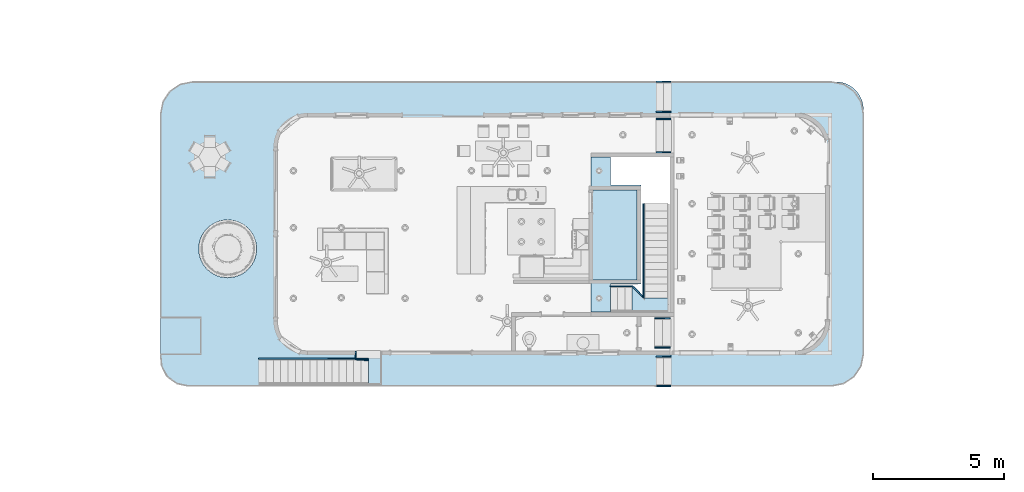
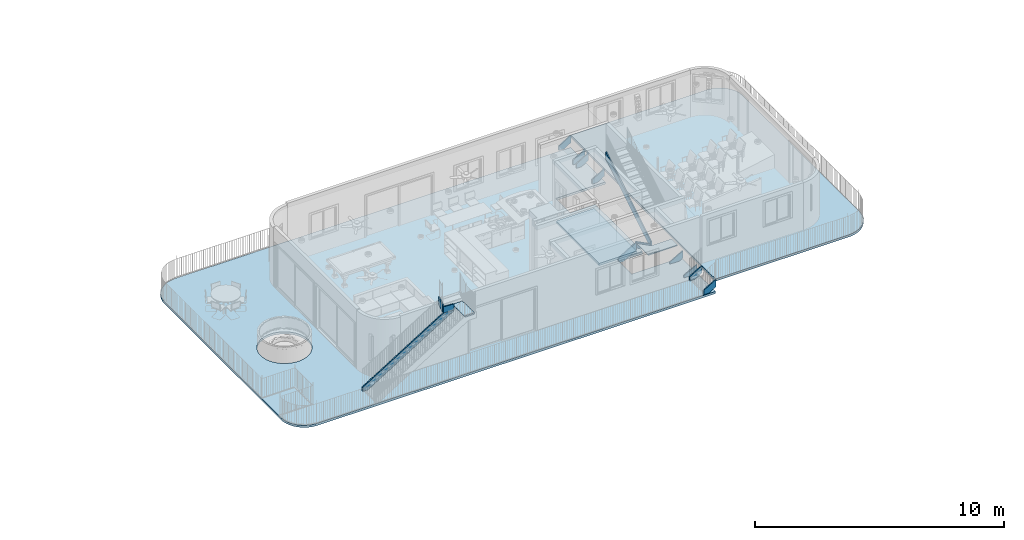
# One storey, part 1 of 21: 14 members, 6 slabs, 2 openings, 6 elements without a shape of their own.
"""IFC2X3 building model written with IfcOpenShell, lengths in feet."""

from ifc_helpers import new_model, entity, si_unit, converted_unit, derived_unit, direction, frame, frame_2d, origin, place, context, subcontext, project, spatial, polyline, circle_curve, parameter, trimmed, segment, composite_curve, rectangle, circle, outline, extrude, faceted_brep, material, layer, layer_set, layer_usage, element, aggregate, save


model = new_model("IFC2X3")

# Units and contexts
model_context = context("Model", 3, precision=0.0001, world=origin(), true_north=direction((6.12303176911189e-17, 1.0)))
body_context = subcontext(model_context, "Body", "Model", "MODEL_VIEW")
ifc_project = project(units=[converted_unit("LENGTHUNIT", "FOOT", entity("IfcRatioMeasure", 0.3048), si_unit("LENGTHUNIT", "METRE"), dimensions=[1, 0, 0, 0, 0, 0, 0]), converted_unit("AREAUNIT", "SQUARE FOOT", entity("IfcRatioMeasure", 0.09290304), si_unit("AREAUNIT", "SQUARE_METRE"), dimensions=[2, 0, 0, 0, 0, 0, 0]), converted_unit("VOLUMEUNIT", "CUBIC FOOT", entity("IfcRatioMeasure", 0.028316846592), si_unit("VOLUMEUNIT", "CUBIC_METRE"), dimensions=[3, 0, 0, 0, 0, 0, 0]), converted_unit("PLANEANGLEUNIT", "DEGREE", entity("IfcRatioMeasure", 0.0174532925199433), si_unit("PLANEANGLEUNIT", "RADIAN"), dimensions=[0, 0, 0, 0, 0, 0, 0]), si_unit("MASSUNIT", "GRAM", prefix="KILO"), derived_unit("MASSDENSITYUNIT", [(si_unit("MASSUNIT", "GRAM", prefix="KILO"), 1), (si_unit("LENGTHUNIT", "METRE"), -3)]), si_unit("TIMEUNIT", "SECOND"), si_unit("FREQUENCYUNIT", "HERTZ"), si_unit("THERMODYNAMICTEMPERATUREUNIT", "DEGREE_CELSIUS"), derived_unit("THERMALTRANSMITTANCEUNIT", [(si_unit("MASSUNIT", "GRAM", prefix="KILO"), 1), (si_unit("THERMODYNAMICTEMPERATUREUNIT", "KELVIN"), -1), (si_unit("TIMEUNIT", "SECOND"), -3)]), derived_unit("VOLUMETRICFLOWRATEUNIT", [(si_unit("LENGTHUNIT", "METRE"), 3), (si_unit("TIMEUNIT", "SECOND"), -1)]), si_unit("ELECTRICCURRENTUNIT", "AMPERE"), si_unit("ELECTRICVOLTAGEUNIT", "VOLT"), si_unit("POWERUNIT", "WATT"), si_unit("FORCEUNIT", "NEWTON"), si_unit("ILLUMINANCEUNIT", "LUX"), si_unit("LUMINOUSFLUXUNIT", "LUMEN"), si_unit("LUMINOUSINTENSITYUNIT", "CANDELA"), derived_unit("USERDEFINED", [(si_unit("MASSUNIT", "GRAM", prefix="KILO"), -1), (si_unit("LENGTHUNIT", "METRE"), -2), (si_unit("TIMEUNIT", "SECOND"), 3), (si_unit("LUMINOUSFLUXUNIT", "LUMEN"), 1)]), derived_unit("LINEARVELOCITYUNIT", [(si_unit("LENGTHUNIT", "METRE"), 1), (si_unit("TIMEUNIT", "SECOND"), -1)]), si_unit("PRESSUREUNIT", "PASCAL"), derived_unit("USERDEFINED", [(si_unit("LENGTHUNIT", "METRE"), -2), (si_unit("MASSUNIT", "GRAM", prefix="KILO"), 1), (si_unit("TIMEUNIT", "SECOND"), -2)])], contexts=[model_context])

# Site, building, storey
site_placement = place(None, origin())
site = spatial("IfcSite", under=ifc_project, at=site_placement, Name="表面", CompositionType="ELEMENT")
building_placement = place(site_placement, origin())
building = spatial("IfcBuilding", under=site, at=building_placement, CompositionType="ELEMENT")
storey_placement = place(building_placement, origin())
storey = spatial("IfcBuildingStorey", under=building, at=storey_placement, Name="Level 1", CompositionType="ELEMENT", Elevation=0.0)

# Stair, members
stair_1_placement = place(storey_placement, origin())
stair_1 = element("IfcStair", 1, at=stair_1_placement, inside=storey, Name="楼梯:7\" max riser 11\" tread", ObjectType="楼梯:7\" max riser 11\" tread", ShapeType="NOTDEFINED")
ifc_material_1 = material(Name="Metal - Aluminum")
member_1_placement = place(stair_1_placement, origin())
member_1 = element("IfcMember", 2, at=member_1_placement, material=ifc_material_1, Name="楼梯:7\" max riser 11\" tread:1", ObjectType="楼梯:7\" max riser 11\" tread", context=body_context, shape_type="SweptSolid", body=[
    extrude(outline(polyline([(-0.724633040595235, -0.519027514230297), (1.42251531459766, -0.519027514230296), (0.81288964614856, 0.480972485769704), (-0.423327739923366, 0.480972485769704), (-1.08744418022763, 0.0761100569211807), (-0.724633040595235, -0.519027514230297)])), frame((14.8539791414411, 17.0157270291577, 1.13102947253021), z_axis=(0.0, 1.0, 0.0), x_axis=(0.853845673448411, 0.0, 0.52052623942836)), (0.0, 0.0, 1.0), 0.166666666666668),
])
member_2_placement = place(stair_1_placement, origin())
member_2 = element("IfcMember", 3, at=member_2_placement, material=ifc_material_1, Name="楼梯:7\" max riser 11\" tread:2", ObjectType="楼梯:7\" max riser 11\" tread", context=body_context, shape_type="SweptSolid", body=[
    extrude(outline(polyline([(-0.724633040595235, -0.519027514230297), (1.42251531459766, -0.519027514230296), (0.81288964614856, 0.480972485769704), (-0.423327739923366, 0.480972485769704), (-1.08744418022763, 0.0761100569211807), (-0.724633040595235, -0.519027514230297)])), frame((14.8539791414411, 20.7657270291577, 1.13102947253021), z_axis=(0.0, 1.0, 0.0), x_axis=(0.853845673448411, 0.0, 0.52052623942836)), (0.0, 0.0, 1.0), 0.166666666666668),
])
aggregate(stair_1, [member_1, member_2])

stair_2_placement = place(storey_placement, origin())
stair_2 = element("IfcStair", 4, at=stair_2_placement, inside=storey, Name="楼梯:7\" max riser 11\" tread", ObjectType="楼梯:7\" max riser 11\" tread", ShapeType="NOTDEFINED")
member_3_placement = place(stair_2_placement, origin())
member_3 = element("IfcMember", 5, at=member_3_placement, material=ifc_material_1, Name="楼梯:7\" max riser 11\" tread:1", ObjectType="楼梯:7\" max riser 11\" tread", context=body_context, shape_type="SweptSolid", body=[
    extrude(outline(polyline([(-0.724633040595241, -0.519027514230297), (1.42251531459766, -0.519027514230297), (0.812889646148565, 0.480972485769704), (-0.423327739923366, 0.480972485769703), (-1.08744418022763, 0.0761100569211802), (-0.724633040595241, -0.519027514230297)])), frame((14.853979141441, -13.7342729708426, 1.1310294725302), z_axis=(0.0, 1.0, 0.0), x_axis=(0.853845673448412, 0.0, 0.520526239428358)), (0.0, 0.0, 1.0), 0.166666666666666),
])
member_4_placement = place(stair_2_placement, origin())
member_4 = element("IfcMember", 6, at=member_4_placement, material=ifc_material_1, Name="楼梯:7\" max riser 11\" tread:2", ObjectType="楼梯:7\" max riser 11\" tread", context=body_context, shape_type="SweptSolid", body=[
    extrude(outline(polyline([(-0.724633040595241, -0.519027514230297), (1.42251531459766, -0.519027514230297), (0.812889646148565, 0.480972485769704), (-0.423327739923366, 0.480972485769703), (-1.08744418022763, 0.0761100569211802), (-0.724633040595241, -0.519027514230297)])), frame((14.853979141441, -17.4009396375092, 1.1310294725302), z_axis=(0.0, 1.0, 0.0), x_axis=(0.853845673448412, 0.0, 0.520526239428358)), (0.0, 0.0, 1.0), 0.166666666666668),
])
aggregate(stair_2, [member_3, member_4])

stair_3_placement = place(storey_placement, origin())
stair_3 = element("IfcStair", 7, at=stair_3_placement, inside=storey, Name="楼梯:7\" max riser 11\" tread", ObjectType="楼梯:7\" max riser 11\" tread", ShapeType="NOTDEFINED")
member_5_placement = place(stair_3_placement, origin())
member_5 = element("IfcMember", 8, at=member_5_placement, material=ifc_material_1, Name="楼梯:7\" max riser 11\" tread:1", ObjectType="楼梯:7\" max riser 11\" tread", context=body_context, shape_type="SweptSolid", body=[
    extrude(outline(polyline([(-0.724633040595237, -0.519027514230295), (1.42251531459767, -0.519027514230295), (0.812889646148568, 0.480972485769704), (-0.423327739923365, 0.480972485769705), (-1.08744418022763, 0.0761100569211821), (-0.724633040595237, -0.519027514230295)])), frame((14.8539791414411, 16.0990603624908, 1.13102947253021), z_axis=(0.0, 1.0, 0.0), x_axis=(0.853845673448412, 0.0, 0.520526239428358)), (0.0, 0.0, 1.0), 0.166666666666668),
])
member_6_placement = place(stair_3_placement, origin())
member_6 = element("IfcMember", 9, at=member_6_placement, material=ifc_material_1, Name="楼梯:7\" max riser 11\" tread:2", ObjectType="楼梯:7\" max riser 11\" tread", context=body_context, shape_type="SweptSolid", body=[
    extrude(outline(polyline([(-0.724633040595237, -0.519027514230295), (1.42251531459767, -0.519027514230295), (0.812889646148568, 0.480972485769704), (-0.423327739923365, 0.480972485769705), (-1.08744418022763, 0.0761100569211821), (-0.724633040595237, -0.519027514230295)])), frame((14.8539791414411, 11.9323936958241, 1.13102947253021), z_axis=(0.0, 1.0, 0.0), x_axis=(0.853845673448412, 0.0, 0.520526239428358)), (0.0, 0.0, 1.0), 0.166666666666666),
])
aggregate(stair_3, [member_5, member_6])

stair_4_placement = place(storey_placement, origin())
stair_4 = element("IfcStair", 10, at=stair_4_placement, inside=storey, Name="楼梯:7\" max riser 11\" tread", ObjectType="楼梯:7\" max riser 11\" tread", ShapeType="NOTDEFINED")
member_7_placement = place(stair_4_placement, origin())
member_7 = element("IfcMember", 11, at=member_7_placement, material=ifc_material_1, Name="楼梯:7\" max riser 11\" tread:2", ObjectType="楼梯:7\" max riser 11\" tread", context=body_context, shape_type="Brep", body=[
    faceted_brep([(8.21508691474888, -4.8785494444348, 0.695913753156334), (8.21508691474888, -4.71188277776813, 0.695913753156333), (8.21508691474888, -4.71188277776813, 0.0), (8.21508691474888, -4.8785494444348, 0.0), (10.9650869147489, -4.87854944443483, 2.36258041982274), (10.9650869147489, -4.87854944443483, 1.19326033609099), (10.7984202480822, -4.71188277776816, 1.0922502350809), (10.7984202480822, -4.71188277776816, 2.26157031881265), (8.99620736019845, -4.71188277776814, 0.0), (8.99620736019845, -4.87854944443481, 0.0)], [[[0, 1, 2, 3]], [[4, 5, 6, 7]], [[1, 0, 4, 7]], [[2, 1, 7, 6, 8]], [[8, 6, 5, 9]], [[0, 3, 9, 5, 4]], [[3, 2, 8, 9]]]),
])
member_8_placement = place(stair_4_placement, origin())
member_8 = element("IfcMember", 12, at=member_8_placement, material=ifc_material_1, Name="楼梯:7\" max riser 11\" tread:3", ObjectType="楼梯:7\" max riser 11\" tread", context=body_context, shape_type="SweptSolid", body=[
    extrude(outline(polyline([(-1.06066017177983, -0.0833333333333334), (1.06066017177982, -0.0833333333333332), (0.893993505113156, 0.0833333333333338), (-0.893993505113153, 0.083333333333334), (-1.06066017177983, -0.0833333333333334)])), frame((11.6073458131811, -5.40295721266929, 1.47222222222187), z_axis=(0.0, 0.0, 1.0), x_axis=(0.707106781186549, -0.707106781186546, 0.0)), (0.0, 0.0, 1.0), 1.0),
])
member_9_placement = place(stair_4_placement, origin())
member_9 = element("IfcMember", 13, at=member_9_placement, material=ifc_material_1, Name="楼梯:7\" max riser 11\" tread:4", ObjectType="楼梯:7\" max riser 11\" tread", context=body_context, shape_type="Brep", body=[
    faceted_brep([(12.4650869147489, -6.37854944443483, 2.91813597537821), (12.2984202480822, -6.21188277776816, 3.01914607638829), (12.2984202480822, -6.21188277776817, 1.84982599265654), (12.4650869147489, -6.37854944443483, 1.74881589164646), (12.465086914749, 5.53811722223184, 10.1403581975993), (12.465086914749, 5.53811722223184, 8.97103811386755), (12.2984202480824, 5.53811722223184, 8.97103811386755), (12.2984202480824, 5.53811722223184, 10.1403581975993)], [[[0, 1, 2, 3]], [[4, 5, 6, 7]], [[1, 0, 4, 7]], [[2, 1, 7, 6]], [[3, 2, 6, 5]], [[0, 3, 5, 4]]]),
])

stair_5_placement = place(storey_placement, origin())
stair_5 = element("IfcStair", 14, at=stair_5_placement, inside=storey, Name="楼梯:7\" max riser 11\" tread", ObjectType="楼梯:7\" max riser 11\" tread", ShapeType="NOTDEFINED")
member_10_placement = place(stair_5_placement, origin())
member_10 = element("IfcMember", 15, at=member_10_placement, material=ifc_material_1, Name="楼梯:7\" max riser 11\" tread:2", ObjectType="楼梯:7\" max riser 11\" tread", context=body_context, shape_type="Brep", body=[
    faceted_brep([(-35.8869576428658, -13.9842729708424, 1.03394226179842), (-35.8869576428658, -13.8176063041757, 1.03394226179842), (-35.8869576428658, -13.8176063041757, 0.333333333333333), (-35.8869576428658, -13.9842729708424, 0.333333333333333), (-22.1369576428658, -13.9842729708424, 9.57560892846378), (-22.1369576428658, -13.9842729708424, 8.39836447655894), (-22.1253835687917, -13.8176063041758, 8.40555443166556), (-22.1253835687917, -13.8176063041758, 9.5827988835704), (-35.1196907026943, -13.8176063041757, 0.333333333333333), (-35.1196907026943, -13.9842729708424, 0.333333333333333)], [[[0, 1, 2, 3]], [[4, 5, 6, 7]], [[3, 2, 8, 9]], [[1, 0, 4, 7]], [[2, 1, 7, 6, 8]], [[8, 6, 5, 9]], [[0, 3, 9, 5, 4]]]),
])
member_11_placement = place(stair_5_placement, origin())
member_11 = element("IfcMember", 16, at=member_11_placement, material=ifc_material_1, Name="楼梯:7\" max riser 11\" tread:3", ObjectType="楼梯:7\" max riser 11\" tread", context=body_context, shape_type="Brep", body=[
    faceted_brep([(-23.6369576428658, -14.0471743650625, 10.0412686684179), (-23.8036243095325, -14.0356002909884, 10.0484586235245), (-23.8036243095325, -14.0356002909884, 8.87121417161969), (-23.6369576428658, -14.0471743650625, 8.86402421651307), (-23.6369576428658, -12.9634396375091, 10.7144978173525), (-23.6369576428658, -12.9634396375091, 9.53725336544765), (-23.8036243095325, -12.9634396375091, 9.53725336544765), (-23.8036243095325, -12.9634396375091, 10.7144978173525)], [[[0, 1, 2, 3]], [[4, 5, 6, 7]], [[1, 0, 4, 7]], [[2, 1, 7, 6]], [[3, 2, 6, 5]], [[0, 3, 5, 4]]]),
])
member_12_placement = place(stair_5_placement, origin())
member_12 = element("IfcMember", 17, at=member_12_placement, material=ifc_material_1, Name="楼梯:7\" max riser 11\" tread:4", ObjectType="楼梯:7\" max riser 11\" tread", context=body_context, shape_type="SweptSolid", body=[
    extrude(outline(polyline([(-0.748912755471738, -0.0833333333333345), (0.754699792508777, -0.0833333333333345), (0.743125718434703, 0.0833333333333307), (-0.748912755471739, 0.0833333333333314), (-0.748912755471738, -0.0833333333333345)])), frame((-22.8898442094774, -14.0155232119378, 8.69444444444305), z_axis=(0.0, 0.0, 1.0), x_axis=(-0.99759742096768, 0.0692775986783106, 0.0)), (0.0, 0.0, 1.0), 1.0),
])

stair_6_placement = place(storey_placement, origin())
stair_6 = element("IfcStair", 18, at=stair_6_placement, inside=storey, Name="楼梯:7\" max riser 11\" tread", ObjectType="楼梯:7\" max riser 11\" tread", ShapeType="NOTDEFINED")
member_13_placement = place(stair_6_placement, origin())
member_13 = element("IfcMember", 19, at=member_13_placement, material=ifc_material_1, Name="楼梯:7\" max riser 11\" tread:1", ObjectType="楼梯:7\" max riser 11\" tread", context=body_context, shape_type="SweptSolid", body=[
    extrude(outline(polyline([(-0.793289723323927, -0.519059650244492), (1.4560359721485, -0.519059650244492), (0.887906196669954, 0.480940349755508), (-0.419156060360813, 0.480940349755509), (-1.13149638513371, 0.0762386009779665), (-0.793289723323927, -0.519059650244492)])), frame((14.7055011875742, -8.88986418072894, 0.625218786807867), z_axis=(0.0, 1.0, 0.0), x_axis=(0.86947599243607, 0.0, 0.49397520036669)), (0.0, 0.0, 1.0), 0.166666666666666),
])
member_14_placement = place(stair_6_placement, origin())
member_14 = element("IfcMember", 20, at=member_14_placement, material=ifc_material_1, Name="楼梯:7\" max riser 11\" tread:2", ObjectType="楼梯:7\" max riser 11\" tread", context=body_context, shape_type="SweptSolid", body=[
    extrude(outline(polyline([(-0.793289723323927, -0.519059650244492), (1.4560359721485, -0.519059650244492), (0.887906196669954, 0.480940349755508), (-0.419156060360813, 0.480940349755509), (-1.13149638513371, 0.0762386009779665), (-0.793289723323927, -0.519059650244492)])), frame((14.7055011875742, -12.5565308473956, 0.625218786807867), z_axis=(0.0, 1.0, 0.0), x_axis=(0.86947599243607, 0.0, 0.49397520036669)), (0.0, 0.0, 1.0), 0.166666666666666),
])
aggregate(stair_6, [member_13, member_14])

# Slab
ifc_material_2 = material(Name="Metal - Deck")
ifc_layer_1 = layer(ifc_material_2, 0.333333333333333)
ifc_material_3 = material(Name="Carpet (2)")
ifc_layer_2 = layer(ifc_material_3, 0.0104166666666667)
ifc_layer_set = layer_set([ifc_layer_1, ifc_layer_2], Name="楼板:LW Concrete on Metal Deck")
ifc_layer_usage_1 = layer_usage(ifc_layer_set, "AXIS3", "POSITIVE", 0.0)
slab_1_placement = place(storey_placement, origin())
element("IfcSlab", 21, at=slab_1_placement, inside=storey, material=ifc_layer_usage_1, Name="楼板:LW Concrete on Metal Deck", ObjectType="楼板:LW Concrete on Metal Deck", PredefinedType="FLOOR", context=body_context, shape_type="SweptSolid", body=[
    extrude(outline(composite_curve([segment(trimmed(circle_curve(frame_2d((15.5, 5.80555555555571), x_axis=(1.0, 0.0)), 3.49999999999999), [parameter(0.0)], [parameter(90.0000000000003)], True, "PARAMETER"), True, "CONTINUOUS"), segment(polyline([(15.5, 9.3055555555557), (-15.1666666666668, 9.30555555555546)]), True, "CONTINUOUS"), segment(trimmed(circle_curve(frame_2d((-15.1666666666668, 5.30555555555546), x_axis=(0.0, 1.0)), 4.0), [parameter(0.0)], [parameter(90.0)], True, "PARAMETER"), True, "CONTINUOUS"), segment(polyline([(-19.1666666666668, 5.30555555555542), (-19.1666666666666, -14.8611111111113)]), True, "CONTINUOUS"), segment(polyline([(-19.1666666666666, -14.8611111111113), (19.0, -14.861111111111)]), True, "CONTINUOUS"), segment(polyline([(19.0, -14.861111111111), (19.0, 5.80555555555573)]), True, "CONTINUOUS")], self_intersect=False)), frame((30.6595313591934, 1.84906036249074, 2.34375), z_axis=(0.0, 0.0, -1.0), x_axis=(0.0, 1.0, 0.0)), (0.0, 0.0, 1.0), 0.34375),
])

# Slab, openings
ifc_layer_usage_2 = layer_usage(ifc_layer_set, "AXIS3", "POSITIVE", 0.0)
slab_2_placement = place(storey_placement, origin())
slab_2 = element("IfcSlab", 22, at=slab_2_placement, inside=storey, material=ifc_layer_usage_2, Name="楼板:LW Concrete on Metal Deck", ObjectType="楼板:LW Concrete on Metal Deck", PredefinedType="FLOOR", context=body_context, shape_type="SweptSolid", body=[
    extrude(outline(composite_curve([segment(polyline([(28.0, 19.0833333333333), (-32.0, 19.0833333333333)]), True, "CONTINUOUS"), segment(polyline([(-32.0, 19.0833333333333), (-32.0, -19.0833333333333)]), True, "CONTINUOUS"), segment(polyline([(-32.0, -19.0833333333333), (28.5, -19.0833333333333)]), True, "CONTINUOUS"), segment(trimmed(circle_curve(frame_2d((28.5, -15.5833333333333), x_axis=(-1.0, 0.0)), 3.5), [parameter(90.0000000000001)], [parameter(180.0)], True, "PARAMETER"), True, "CONTINUOUS"), segment(polyline([(32.0, -15.5833333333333), (32.0, -15.0833333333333)]), True, "CONTINUOUS"), segment(polyline([(32.0, -15.0833333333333), (32.0, 15.0833333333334)]), True, "CONTINUOUS"), segment(trimmed(circle_curve(frame_2d((28.0, 15.0833333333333), x_axis=(-1.0, 0.0)), 4.0), [parameter(180.0)], [parameter(270.0)], True, "PARAMETER"), True, "CONTINUOUS")], self_intersect=False)), frame((-16.2015797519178, 1.76572702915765, 0.34375), z_axis=(0.0, 0.0, -1.0), x_axis=(-1.0, 0.0, 0.0)), (0.0, 0.0, 1.0), 0.34375),
])
opening_1_placement = place(storey_placement, origin())
element("IfcOpeningElement", 23, at=opening_1_placement, cuts=slab_2, ObjectType="Opening", context=body_context, shape_type="SweptSolid", body=[
    extrude(outline(polyline([(-24.4556912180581, 9.91666666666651), (-32.0, 9.91666666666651), (-32.0, -10.0833333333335), (-24.4556912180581, -10.0833333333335), (-24.4556912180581, -6.31094314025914), (-28.2890245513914, -6.31094314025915), (-28.2890245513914, 6.10572352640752), (-24.4556912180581, 6.10572352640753), (-24.4556912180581, 9.91666666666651)])), frame((-16.2015797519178, 1.76572702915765, 0.34375), z_axis=(0.0, 0.0, -1.0), x_axis=(-1.0, 0.0, 0.0)), (0.0, 0.0, 1.0), 0.34375),
])
opening_2_placement = place(storey_placement, origin())
element("IfcOpeningElement", 24, at=opening_2_placement, cuts=slab_2, ObjectType="Opening", context=body_context, shape_type="SweptSolid", body=[
    extrude(circle(Radius=3.62499999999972, at=frame_2d((23.5843939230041, -1.87496464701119), x_axis=(1.0, 0.0))), frame((-16.2015797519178, 1.76572702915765, 0.34375), z_axis=(0.0, 0.0, -1.0), x_axis=(-1.0, 0.0, 0.0)), (0.0, 0.0, 1.0), 0.34375),
])

# Slab
slab_3_placement = place(stair_4_placement, origin())
slab_3 = element("IfcSlab", 25, at=slab_3_placement, material=ifc_material_1, Name="楼梯:7\" max riser 11\" tread:1", ObjectType="楼梯:7\" max riser 11\" tread", PredefinedType="LANDING", context=body_context, shape_type="Brep", body=[
    faceted_brep([(12.4650869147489, -6.2952161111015, 2.22222222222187), (12.4650869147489, -6.37854944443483, 2.22222222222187), (10.9650869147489, -4.87854944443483, 2.22222222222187), (10.9650869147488, -7.87854944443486, 2.22222222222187), (15.4650869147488, -7.87854944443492, 2.22222222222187), (15.4650869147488, -6.37854944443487, 2.22222222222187), (15.4650869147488, -6.29521611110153, 2.22222222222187), (12.4650869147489, -6.37854944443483, 2.05555555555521), (12.4650869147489, -6.2952161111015, 2.05555555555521), (15.4650869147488, -6.29521611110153, 2.05555555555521), (15.4650869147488, -6.37854944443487, 2.05555555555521), (15.4650869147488, -7.87854944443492, 2.05555555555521), (11.0484202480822, -7.87854944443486, 2.05555555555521), (11.0484202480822, -4.96188277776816, 2.05555555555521), (10.9650869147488, -7.87854944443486, 2.15972222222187), (11.0484202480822, -7.87854944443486, 2.07638888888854), (11.0484202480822, -4.96188277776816, 2.07638888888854), (10.9650869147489, -4.87854944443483, 2.15972222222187)], [[[0, 1, 2, 3, 4, 5, 6]], [[7, 8, 9, 10, 11, 12, 13]], [[6, 5, 10, 9]], [[5, 4, 11, 10]], [[4, 3, 14, 15, 12, 11]], [[13, 12, 15, 16]], [[2, 1, 7, 13, 16, 17]], [[1, 0, 8, 7]], [[0, 6, 9, 8]], [[14, 3, 2, 17]], [[15, 14, 17, 16]]]),
])

aggregate(stair_4, [slab_3, member_7, member_8, member_9])

# Slabs
ifc_layer_usage_3 = layer_usage(ifc_layer_set, "AXIS3", "POSITIVE", 0.0)
slab_4_placement = place(storey_placement, origin())
element("IfcSlab", 26, at=slab_4_placement, inside=storey, material=ifc_layer_usage_3, Name="楼板:LW Concrete on Metal Deck", ObjectType="楼板:LW Concrete on Metal Deck", PredefinedType="FLOOR", context=body_context, shape_type="SweptSolid", body=[
    extrude(rectangle(XDim=11.2747125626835, YDim=5.75, at=frame_2d((1.77635683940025e-15, -4.44089209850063e-16), x_axis=(1.0, 0.0))), frame((8.67342024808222, 1.65308331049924, 0.25), z_axis=(0.0, 0.0, -1.0), x_axis=(0.0, 1.0, 0.0)), (0.0, 0.0, 1.0), 0.34375),
])
ifc_layer_usage_4 = layer_usage(ifc_layer_set, "AXIS3", "POSITIVE", 0.0)
slab_5_placement = place(storey_placement, origin())
element("IfcSlab", 27, at=slab_5_placement, inside=storey, material=ifc_layer_usage_4, Name="楼板:LW Concrete on Metal Deck", ObjectType="楼板:LW Concrete on Metal Deck", PredefinedType="FLOOR", context=body_context, shape_type="SweptSolid", body=[
    extrude(outline(polyline([(-8.41218862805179, -2.70780491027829), (11.0237545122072, -2.70780491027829), (11.0237545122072, -0.29113824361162), (7.46281137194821, -0.29113824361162), (7.46281137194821, 3.54219508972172), (-4.95385529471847, 3.54219508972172), (-4.95385529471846, -0.252113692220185), (-5.12052196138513, -0.252113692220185), (-5.12052196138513, -0.291138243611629), (-8.41218862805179, -0.291138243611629), (-8.41218862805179, -2.70780491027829)])), frame((8.50622515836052, 0.408639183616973, 0.25), z_axis=(0.0, 0.0, -1.0), x_axis=(0.0, 1.0, 0.0)), (0.0, 0.0, 1.0), 0.34375),
])

# Slab
slab_6_placement = place(stair_5_placement, origin())
slab_6 = element("IfcSlab", 28, at=slab_6_placement, material=ifc_material_1, Name="楼梯:7\" max riser 11\" tread:1", ObjectType="楼梯:7\" max riser 11\" tread", PredefinedType="LANDING", context=body_context, shape_type="Brep", body=[
    faceted_brep([(-23.6369576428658, -13.7967729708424, 9.44444444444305), (-23.6369576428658, -13.8801063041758, 9.44444444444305), (-22.1369576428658, -13.9842729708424, 9.44444444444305), (-22.1369576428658, -16.9842729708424, 9.44444444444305), (-20.6369576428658, -16.9842729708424, 9.44444444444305), (-20.6369576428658, -13.8801063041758, 9.44444444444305), (-20.6369576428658, -13.7967729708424, 9.44444444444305), (-23.6369576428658, -13.8801063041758, 9.27777777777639), (-23.6369576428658, -13.7967729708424, 9.27777777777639), (-20.6369576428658, -13.7967729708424, 9.27777777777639), (-20.6369576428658, -13.8801063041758, 9.27777777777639), (-20.6369576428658, -16.9842729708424, 9.27777777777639), (-22.0536243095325, -16.9842729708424, 9.27777777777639), (-22.0536243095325, -13.9900600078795, 9.27777777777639), (-22.0536243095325, -13.9900600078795, 9.29861111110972), (-22.1369576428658, -13.9842729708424, 9.38194444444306), (-22.0536243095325, -16.9842729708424, 9.29861111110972), (-22.1369576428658, -16.9842729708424, 9.38194444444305)], [[[0, 1, 2, 3, 4, 5, 6]], [[7, 8, 9, 10, 11, 12, 13]], [[1, 0, 8, 7]], [[7, 13, 14, 15, 2, 1]], [[13, 12, 16, 14]], [[4, 3, 17, 16, 12, 11]], [[5, 4, 11, 10]], [[6, 5, 10, 9]], [[0, 6, 9, 8]], [[17, 3, 2, 15]], [[16, 17, 15, 14]]]),
])

aggregate(stair_5, [slab_6, member_10, member_11, member_12])

save(model, "model.ifc")
